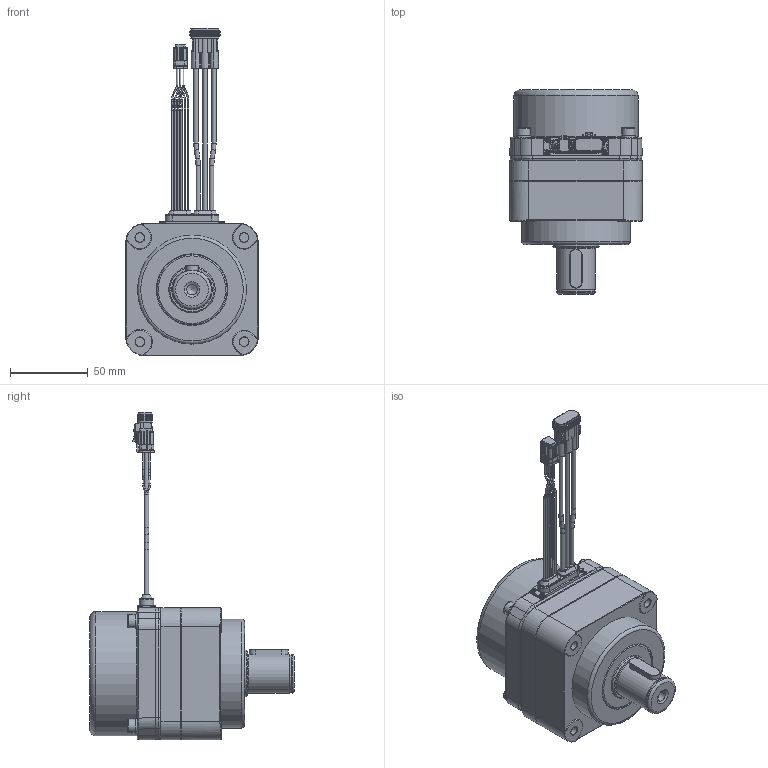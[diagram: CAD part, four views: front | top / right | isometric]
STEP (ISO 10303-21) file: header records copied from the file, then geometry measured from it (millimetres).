
FILE_DESCRIPTION(/* description */ (''),/* implementation_level */ '2;1');
FILE_NAME(/* name */ 'MS94BZA_outsidemodel.stp',/* time_stamp */ '2021-07-20T09:22:52+09:00',/* author */ (''),/* organization */ (''),/* preprocessor_version */ 'ST-DEVELOPER v16.7',/* originating_system */ 'SIEMENS PLM Software NX 12.0',/* authorisation */ '');
FILE_SCHEMA (('AUTOMOTIVE_DESIGN { 1 0 10303 214 3 1 1 1 }'));
Length unit declared in the file: millimetre
Products named in the file (1): MS94BZA_outsidemodel
Bounding box: 85 x 131.5 x 210.5 mm (x, y, z)
Volume: 610876.8 mm3; surface area: 61134.1 mm2
Topology: 1 solids, 17 shells, 1683 faces, 4022 edges, 2409 vertices
Faces by surface type: cylinder 653, plane 610, torus 182, bspline 108, cone 68, sphere 56, revolution 6
Full cylindrical faces by diameter (mm): 1 x30, 1.02 x6, 2.8 x7, 3 x4, 3.01 x2, 3.025 x4, 4.41 x2, 4.5 x5, 5 x5, 5.25 x4, 5.3 x4, 6 x8, 6.3 x4, 6.5 x4, 6.8 x1, 8.5 x4, 9.2 x4, 23.795 x1, 24.994 x1, 29.8 x1, 29.983 x1, 30 x1, 46 x1, 70 x1, 79.8 x1
Entity records: 59643 total; most frequent: CARTESIAN_POINT 12239, DIRECTION 7769, ORIENTED_EDGE 7482, EDGE_CURVE 3741, AXIS2_PLACEMENT_3D 2932, VERTEX_POINT 2356, EDGE_LOOP 1980, LINE 1899
